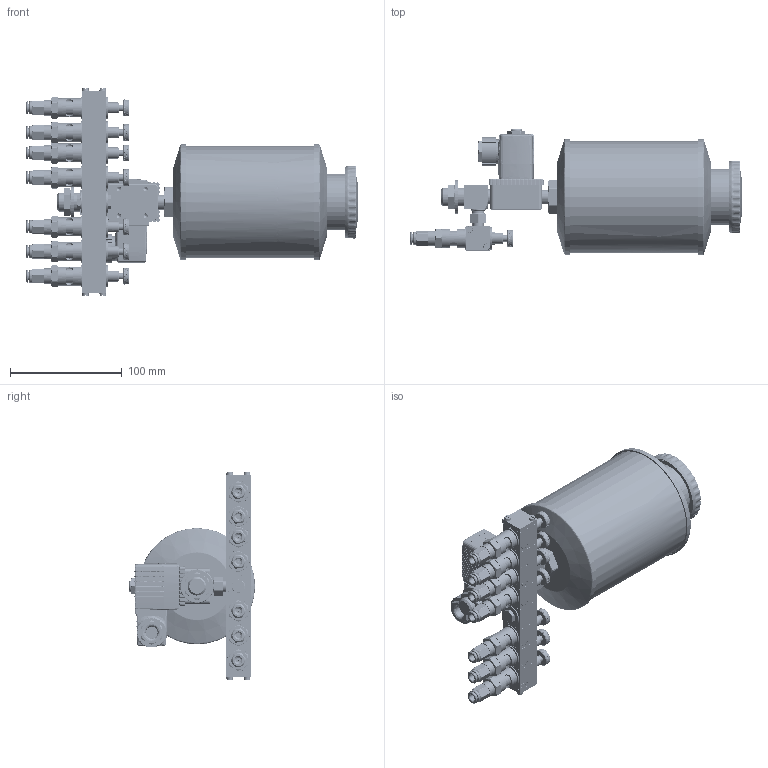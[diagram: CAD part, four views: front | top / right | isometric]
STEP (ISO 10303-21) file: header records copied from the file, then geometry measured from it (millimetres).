
FILE_DESCRIPTION (( 'STEP AP214' ), '1' );
FILE_NAME ('TRO_03_01_07_XXX.STEP', '2025-11-24T11:37:19', ( '' ), ( '' ), 'SwSTEP 2.0', 'SolidWorks 2022', '' );
FILE_SCHEMA (( 'AUTOMOTIVE_DESIGN' ));
Length unit declared in the file: millimetre
Products named in the file (20): OR 7.2X1.9_1; TRO_2er_mittel; OR 7.66X1.78; TRO_2er; DR6_NEU; TRO_Magnetventil_aktuell; TRO_2er_mittel_Mit_Verschr.SLDPRT; R200107-N1; TRO_1er_Mit_Verschr.SLDPRT; TRO_03_01_07_XXX; DR6-C_HDX_25.07.16; TRO_Stutzen.SLDPRT; TRO_Behaelter_01; TRO_Magnetventil_ohne; RIVOLUZIONE_0; TRO_Magnetventil_Stecker; 9911 0701 0601_6_1_8_HD; TRO_Endplatte
Assembly tree (22 placements, depth 4):
  OR 7.2X1.9_1
  DR6_NEU
  R200107-N1
  TRO_03_01_07_XXX
    TRO_Behaelter_01
    TRO_2er_mittel_Mit_Verschr.SLDPRT
      TRO_Stutzen.SLDPRT
        TRO_2er_mittel
      TRO_2er
      9911 0701 0601_6_1_8_HD  x2
        RIVOLUZIONE_0
        OR 7.66X1.78
        DR6-C_HDX_25.07.16
    TRO_1er_Mit_Verschr.SLDPRT  x5
      TRO_2er
      9911 0701 0601_6_1_8_HD
        RIVOLUZIONE_0
        OR 7.66X1.78
        DR6-C_HDX_25.07.16
    TRO_Magnetventil_aktuell
      TRO_Magnetventil_ohne
      TRO_Magnetventil_Stecker
    TRO_Endplatte  x2
  TRO_2er_mittel
Bounding box: 296.51 x 112.7 x 185.05 mm (x, y, z)
Volume: 442904.7 mm3; surface area: 275730.8 mm2
Topology: 43 solids, 43 shells, 8681 faces, 22420 edges, 13983 vertices
Faces by surface type: bspline 3386, plane 3028, cylinder 1501, cone 763, torus 3
Full cylindrical faces by diameter (mm): 1.5 x7, 2 x7, 3.5 x11, 3.8 x7, 4.2 x7, 4.5 x7, 5.5 x4, 5.9 x14, 6 x2, 6.2 x7, 6.25 x1, 6.3 x7, 6.75 x1, 7 x8, 7.2 x7, 7.4 x1, 8 x2, 8.3 x7, 8.4 x1, 8.5 x1, 8.6 x10, 8.8 x1, 9 x8, 9.2 x1, 9.5 x7, 9.728 x7, 9.8 x1, 9.9 x7, 10 x18, 10.1 x1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
Entity records: 315538 total; most frequent: CARTESIAN_POINT 172988, ORIENTED_EDGE 32244, DIRECTION 18612, EDGE_CURVE 16122, VERTEX_POINT 10235, B_SPLINE_CURVE_WITH_KNOTS 7572, AXIS2_PLACEMENT_3D 6994, EDGE_LOOP 6979
